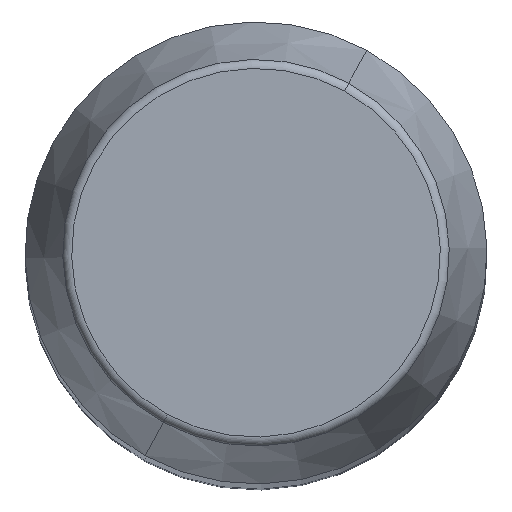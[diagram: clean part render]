
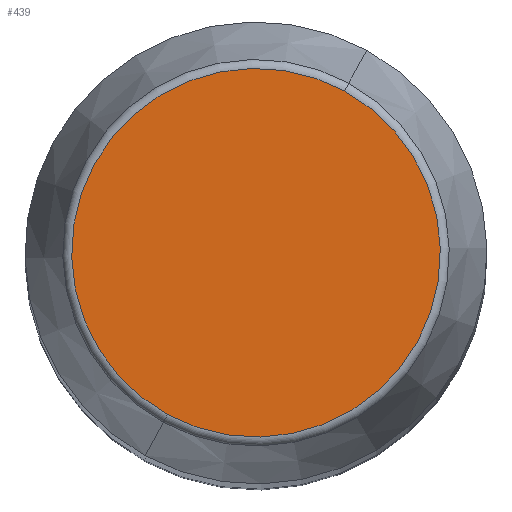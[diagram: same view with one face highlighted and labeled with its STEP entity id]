
A CAD part, top view. The second image highlights one B-rep face of the part: STEP entity #439.
In plain terms, the highlighted planar face has unit normal (0, 0, 1).
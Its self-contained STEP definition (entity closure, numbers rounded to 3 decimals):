
#391=CARTESIAN_POINT('Vertex',(-9.562,-17.504,400.)) ;
#394=CARTESIAN_POINT('Axis2P3D Location',(0.,0.,400.)) ;
#398=CARTESIAN_POINT('Vertex',(9.562,17.504,400.)) ;
#418=CARTESIAN_POINT('Axis2P3D Location',(0.,0.,400.)) ;
#430=CARTESIAN_POINT('Axis2P3D Location',(0.,19.945,400.)) ;
#395=DIRECTION('Axis2P3D Direction',(0.,0.,-1.)) ;
#419=DIRECTION('Axis2P3D Direction',(0.,0.,-1.)) ;
#431=DIRECTION('Axis2P3D Direction',(0.,0.,-1.)) ;
#432=DIRECTION('Axis2P3D XDirection',(1.,0.,0.)) ;
#396=AXIS2_PLACEMENT_3D('Circle Axis2P3D',#394,#395,$) ;
#420=AXIS2_PLACEMENT_3D('Circle Axis2P3D',#418,#419,$) ;
#433=AXIS2_PLACEMENT_3D('Plane Axis2P3D',#430,#431,#432) ;
#436=ORIENTED_EDGE('',*,*,#422,.F.) ;
#437=ORIENTED_EDGE('',*,*,#400,.F.) ;
#439=ADVANCED_FACE('PartBody',(#438),#434,.F.) ;
#397=CIRCLE('generated circle',#396,19.945) ;
#421=CIRCLE('generated circle',#420,19.945) ;
#400=EDGE_CURVE('',#392,#399,#397,.T.) ;
#422=EDGE_CURVE('',#399,#392,#421,.T.) ;
#435=EDGE_LOOP('',(#436,#437)) ;
#438=FACE_OUTER_BOUND('',#435,.T.) ;
#434=PLANE('Plane',#433) ;
#392=VERTEX_POINT('',#391) ;
#399=VERTEX_POINT('',#398) ;
